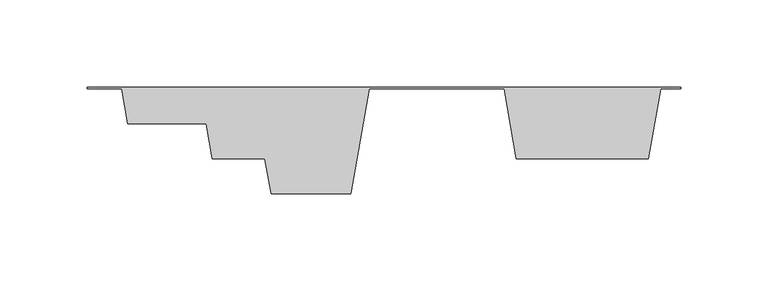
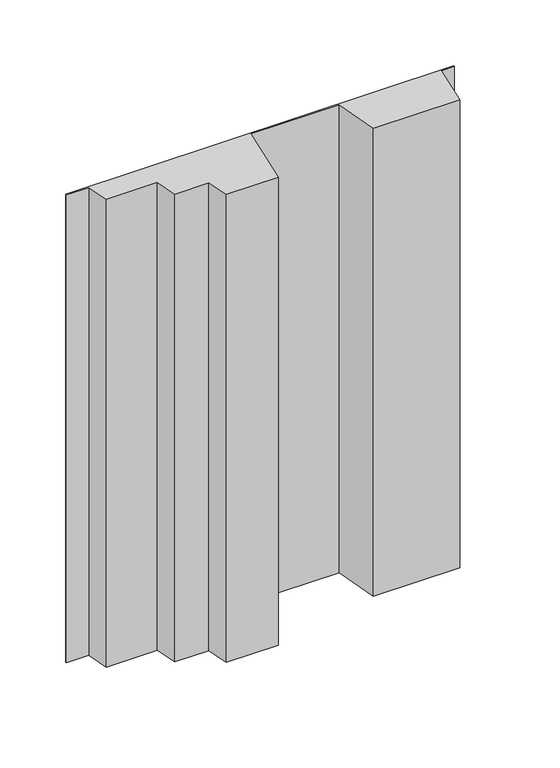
"""IFC4 building model written with IfcOpenShell, lengths in millimetres: plate geometry, ATELIERS 3S_NEW YORK MANHATTAN 780_VERTICAL : AZURO."""

from ifc_helpers import new_model, si_unit, origin, origin_with_axes, place, context, project, spatial, polyline, outline, extrude, source, transform, mapped, element, save


def plate_11099481(model_context):
    return source(origin(), model_context, "Body", "SweptSolid", [
        extrude(outline(polyline([(-150.3146625, -0.864757), (-170.0000002, -0.864757), (-170.0000002, 0.0), (170.0000002, 0.0), (170.0000002, -0.864757), (158.5800584, -0.864757), (151.5269791, -40.864757), (75.8976544, -40.864757), (68.8445752, -0.864757), (-8.5261001, -0.864757), (-19.1057189, -60.864757), (-64.7350437, -60.864757), (-68.2615833, -40.864757), (-98.2615833, -40.864757), (-101.7881229, -20.864757), (-146.7881229, -20.864757), (-150.3146625, -0.864757)])), origin_with_axes(), (0.0, 0.0, 1.0), 433.4619218),
    ])


if __name__ == "__main__":
    model = new_model("IFC4")
    model_context = context("Model", 3, world=origin())
    ifc_project = project(units=[si_unit("LENGTHUNIT", "METRE", prefix="MILLI")], contexts=[model_context])
    site = spatial("IfcSite", under=ifc_project)
    building = spatial("IfcBuilding", under=site)
    placement = place(None, origin())
    plate_shape = plate_11099481(model_context)
    element("IfcPlate", 1, ObjectType="ATELIERS 3S_NEW YORK MANHATTAN 780_VERTICAL : AZURO", at=placement, inside=building, context=model_context, shape_type="MappedRepresentation", body=[
        mapped(plate_shape, transform((0.0, 0.0, 0.0), x_axis=(1.0, 0.0, 0.0), y_axis=(0.0, 1.0, 0.0), z_axis=(0.0, 0.0, 1.0))),
    ])
    save(model, "model.ifc")
